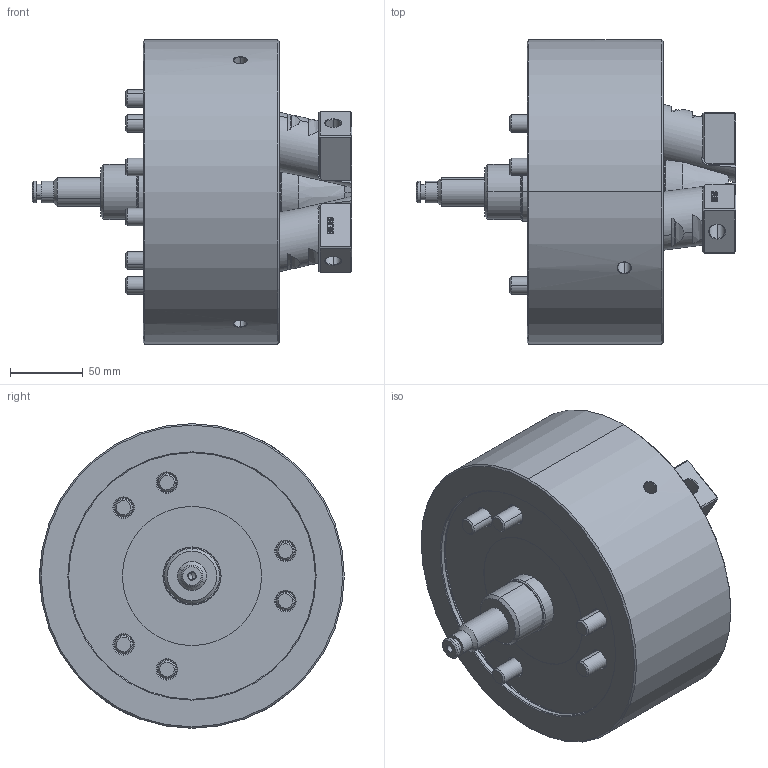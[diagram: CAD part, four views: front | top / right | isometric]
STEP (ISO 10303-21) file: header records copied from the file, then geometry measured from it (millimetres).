
FILE_DESCRIPTION (( 'STEP AP214' ), '1' );
FILE_NAME ('PUE08_UC.STEP', '2019-12-02T03:10:10', ( '' ), ( '' ), 'SwSTEP 2.0', 'SolidWorks 2017', '' );
FILE_SCHEMA (( 'AUTOMOTIVE_DESIGN' ));
Length unit declared in the file: millimetre
Products named in the file (4): 0030106012; 61P458072; PUE08_UC; 結合
Assembly tree (7 placements, depth 2):
  PUE08_UC
    61P458072  x3
    0030106012  x3
    結合
Bounding box: 220.55 x 210 x 210 mm (x, y, z)
Volume: 3394948.9 mm3; surface area: 240183.2 mm2
Topology: 7 solids, 7 shells, 1617 faces, 4027 edges, 2517 vertices
Faces by surface type: plane 669, bspline 396, cone 278, cylinder 235, torus 39
Entity records: 47416 total; most frequent: CARTESIAN_POINT 19792, ORIENTED_EDGE 5998, DIRECTION 4957, EDGE_CURVE 2999, VERTEX_POINT 1889, AXIS2_PLACEMENT_3D 1681, VECTOR 1595, LINE 1595
